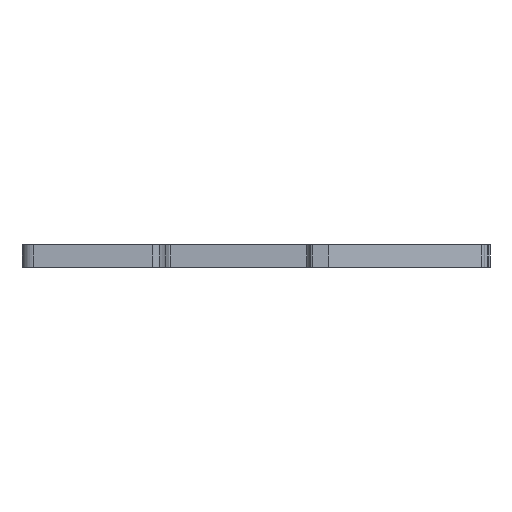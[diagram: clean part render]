
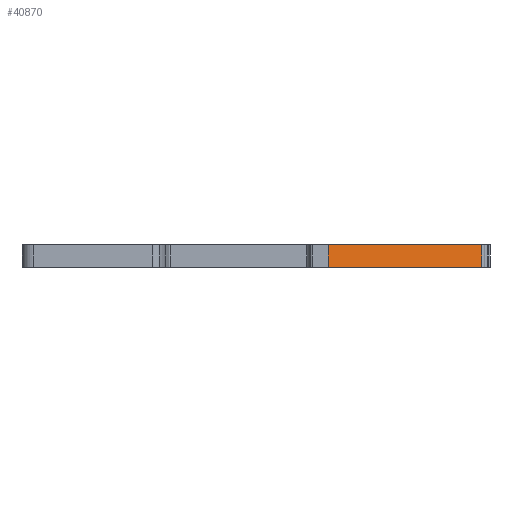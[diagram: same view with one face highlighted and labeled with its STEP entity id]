
A CAD part, front view. The second image highlights one B-rep face of the part: STEP entity #40870.
In plain terms, the highlighted planar face has unit normal (0.326, -0.946, 0).
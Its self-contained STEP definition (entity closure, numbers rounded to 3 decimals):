
#11060=CARTESIAN_POINT('',(56.04,7.265,0.));
#11070=VERTEX_POINT('',#11060);
#11100=CARTESIAN_POINT('',(19.817,-5.207,0.));
#11110=DIRECTION('',(0.946,0.326,0.));
#11120=VECTOR('',#11110,1.);
#11130=LINE('',#11100,#11120);
#11140=CARTESIAN_POINT('',(21.,-4.8,0.));
#11150=VERTEX_POINT('',#11140);
#11160=EDGE_CURVE('',#11150,#11070,#11130,.T.);
#23420=CARTESIAN_POINT('',(21.,-4.8,-5.2));
#23430=VERTEX_POINT('',#23420);
#23460=CARTESIAN_POINT('',(19.817,-5.207,-5.2));
#23470=DIRECTION('',(0.946,0.326,0.));
#23480=VECTOR('',#23470,1.);
#23490=LINE('',#23460,#23480);
#23500=CARTESIAN_POINT('',(56.04,7.265,-5.2));
#23510=VERTEX_POINT('',#23500);
#23520=EDGE_CURVE('',#23430,#23510,#23490,.T.);
#40600=CARTESIAN_POINT('',(21.,-4.8,0.));
#40610=DIRECTION('',(-0.,-0.,-1.));
#40620=VECTOR('',#40610,1.);
#40630=LINE('',#40600,#40620);
#40640=EDGE_CURVE('',#11150,#23430,#40630,.T.);
#40710=CARTESIAN_POINT('',(56.04,7.265,0.));
#40720=DIRECTION('',(-0.326,0.946,0.));
#40730=DIRECTION('',(0.946,0.326,0.));
#40740=AXIS2_PLACEMENT_3D('',#40710,#40720,#40730);
#40750=PLANE('',#40740);
#40760=ORIENTED_EDGE('',*,*,#11160,.F.);
#40770=CARTESIAN_POINT('',(56.04,7.265,0.));
#40780=DIRECTION('',(-0.,-0.,-1.));
#40790=VECTOR('',#40780,1.);
#40800=LINE('',#40770,#40790);
#40810=EDGE_CURVE('',#11070,#23510,#40800,.T.);
#40820=ORIENTED_EDGE('',*,*,#40810,.F.);
#40830=ORIENTED_EDGE('',*,*,#23520,.T.);
#40840=ORIENTED_EDGE('',*,*,#40640,.T.);
#40850=EDGE_LOOP('',(#40840,#40830,#40820,#40760));
#40860=FACE_OUTER_BOUND('',#40850,.T.);
#40870=ADVANCED_FACE('',(#40860),#40750,.F.);
